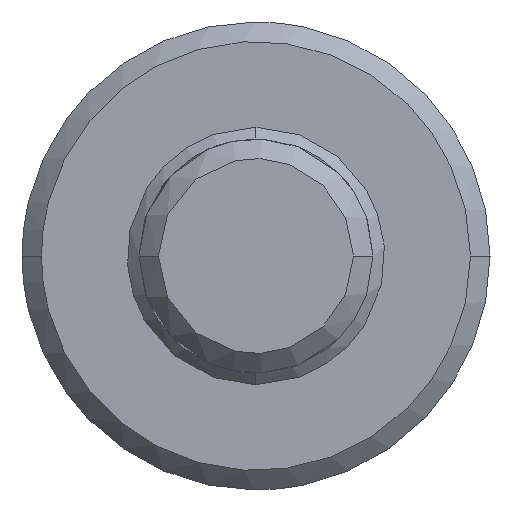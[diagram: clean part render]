
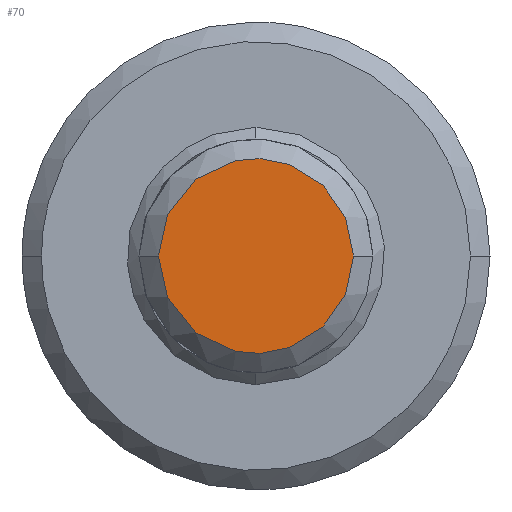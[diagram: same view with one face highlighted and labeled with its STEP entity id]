
A CAD part, left-side view. The second image highlights one B-rep face of the part: STEP entity #70.
In plain terms, the highlighted planar face has unit normal (-1, 0, 0).
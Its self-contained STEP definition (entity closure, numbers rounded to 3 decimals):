
#70=ADVANCED_FACE('',(#114),#1283,.T.);
#114=FACE_OUTER_BOUND('',#160,.T.);
#160=EDGE_LOOP('',(#307,#308));
#307=ORIENTED_EDGE('',*,*,#1087,.T.);
#308=ORIENTED_EDGE('',*,*,#1085,.F.);
#504=B_SPLINE_CURVE_WITH_KNOTS('',1,(#3117,#3118),.UNSPECIFIED.,.F.,.F.,
(2,2),(-4.142,-1.),.UNSPECIFIED.);
#507=B_SPLINE_CURVE_WITH_KNOTS('',1,(#3138,#3139),.UNSPECIFIED.,.F.,.F.,
(2,2),(5.142,8.283),.UNSPECIFIED.);
#677=PCURVE('',#1269,#861);
#679=PCURVE('',#1283,#863);
#680=PCURVE('',#1283,#864);
#681=PCURVE('',#1270,#865);
#861=DEFINITIONAL_REPRESENTATION('',(#504),#3322);
#863=DEFINITIONAL_REPRESENTATION('',(#1164),#3322);
#864=DEFINITIONAL_REPRESENTATION('',(#1165),#3322);
#865=DEFINITIONAL_REPRESENTATION('',(#507),#3322);
#993=SURFACE_CURVE('',#1162,(#677,#680),.PCURVE_S1.);
#995=SURFACE_CURVE('',#1163,(#679,#681),.PCURVE_S1.);
#1085=EDGE_CURVE('',#1242,#1241,#993,.T.);
#1087=EDGE_CURVE('',#1242,#1241,#995,.T.);
#1162=(
BOUNDED_CURVE()
B_SPLINE_CURVE(2,(#3112,#3113,#3114,#3115,#3116),.UNSPECIFIED.,.F.,.F.)
B_SPLINE_CURVE_WITH_KNOTS((3,2,3),(-4.142,-2.571,-1.),
 .UNSPECIFIED.)
CURVE()
GEOMETRIC_REPRESENTATION_ITEM()
RATIONAL_B_SPLINE_CURVE((1.,0.707,1.,0.707,1.))
REPRESENTATION_ITEM('')
);
#1163=(
BOUNDED_CURVE()
B_SPLINE_CURVE(2,(#3123,#3124,#3125,#3126,#3127),.UNSPECIFIED.,.F.,.F.)
B_SPLINE_CURVE_WITH_KNOTS((3,2,3),(5.142,6.712,8.283),
 .UNSPECIFIED.)
CURVE()
GEOMETRIC_REPRESENTATION_ITEM()
RATIONAL_B_SPLINE_CURVE((1.,0.707,1.,0.707,1.))
REPRESENTATION_ITEM('')
);
#1164=(
BOUNDED_CURVE()
B_SPLINE_CURVE(2,(#3128,#3129,#3130,#3131,#3132),.UNSPECIFIED.,.F.,.F.)
B_SPLINE_CURVE_WITH_KNOTS((3,2,3),(5.142,6.712,8.283),
 .UNSPECIFIED.)
CURVE()
GEOMETRIC_REPRESENTATION_ITEM()
RATIONAL_B_SPLINE_CURVE((1.,0.707,1.,0.707,1.))
REPRESENTATION_ITEM('')
);
#1165=(
BOUNDED_CURVE()
B_SPLINE_CURVE(2,(#3133,#3134,#3135,#3136,#3137),.UNSPECIFIED.,.F.,.F.)
B_SPLINE_CURVE_WITH_KNOTS((3,2,3),(-4.142,-2.571,-1.),
 .UNSPECIFIED.)
CURVE()
GEOMETRIC_REPRESENTATION_ITEM()
RATIONAL_B_SPLINE_CURVE((1.,0.707,1.,0.707,1.))
REPRESENTATION_ITEM('')
);
#1241=VERTEX_POINT('',#2931);
#1242=VERTEX_POINT('',#2932);
#1269=(
BOUNDED_SURFACE()
B_SPLINE_SURFACE(2,1,((#2595,#2596),(#2597,#2598),(#2599,#2600),(#2601,#2602),
(#2603,#2604),(#2605,#2606),(#2607,#2608),(#2609,#2610),(#2611,#2612)),
 .UNSPECIFIED.,.T.,.F.,.F.)
B_SPLINE_SURFACE_WITH_KNOTS((3,2,2,2,3),(2,2),(0.,1.571,3.142,
4.712,6.283),(0.,1.),.UNSPECIFIED.)
GEOMETRIC_REPRESENTATION_ITEM()
RATIONAL_B_SPLINE_SURFACE(((1.,1.),(0.707,0.707),
(1.,1.),(0.707,0.707),(1.,1.),(0.707,
0.707),(1.,1.),(0.707,0.707),(1.,1.)))
REPRESENTATION_ITEM('')
SURFACE()
);
#1270=(
BOUNDED_SURFACE()
B_SPLINE_SURFACE(2,1,((#2614,#2615),(#2616,#2617),(#2618,#2619),(#2620,#2621),
(#2622,#2623),(#2624,#2625),(#2626,#2627),(#2628,#2629),(#2630,#2631)),
 .UNSPECIFIED.,.T.,.F.,.F.)
B_SPLINE_SURFACE_WITH_KNOTS((3,2,2,2,3),(2,2),(0.,1.571,3.142,
4.712,6.283),(0.,1.),.UNSPECIFIED.)
GEOMETRIC_REPRESENTATION_ITEM()
RATIONAL_B_SPLINE_SURFACE(((1.,1.),(0.707,0.707),
(1.,1.),(0.707,0.707),(1.,1.),(0.707,
0.707),(1.,1.),(0.707,0.707),(1.,1.)))
REPRESENTATION_ITEM('')
SURFACE()
);
#1283=PLANE('',#1311);
#1311=AXIS2_PLACEMENT_3D('',#2613,#1322,$);
#1322=DIRECTION('',(-1.,0.,0.));
#2595=CARTESIAN_POINT('',(-768.5,285.,30.));
#2596=CARTESIAN_POINT('',(-764.257,289.243,30.));
#2597=CARTESIAN_POINT('',(-768.5,285.,30.));
#2598=CARTESIAN_POINT('',(-764.257,289.243,34.243));
#2599=CARTESIAN_POINT('',(-768.5,285.,30.));
#2600=CARTESIAN_POINT('',(-764.257,285.,34.243));
#2601=CARTESIAN_POINT('',(-768.5,285.,30.));
#2602=CARTESIAN_POINT('',(-764.257,280.757,34.243));
#2603=CARTESIAN_POINT('',(-768.5,285.,30.));
#2604=CARTESIAN_POINT('',(-764.257,280.757,30.));
#2605=CARTESIAN_POINT('',(-768.5,285.,30.));
#2606=CARTESIAN_POINT('',(-764.257,280.757,25.757));
#2607=CARTESIAN_POINT('',(-768.5,285.,30.));
#2608=CARTESIAN_POINT('',(-764.257,285.,25.757));
#2609=CARTESIAN_POINT('',(-768.5,285.,30.));
#2610=CARTESIAN_POINT('',(-764.257,289.243,25.757));
#2611=CARTESIAN_POINT('',(-768.5,285.,30.));
#2612=CARTESIAN_POINT('',(-764.257,289.243,30.));
#2613=CARTESIAN_POINT('',(-766.,287.5,32.5));
#2614=CARTESIAN_POINT('',(-768.5,285.,30.));
#2615=CARTESIAN_POINT('',(-764.257,289.243,30.));
#2616=CARTESIAN_POINT('',(-768.5,285.,30.));
#2617=CARTESIAN_POINT('',(-764.257,289.243,34.243));
#2618=CARTESIAN_POINT('',(-768.5,285.,30.));
#2619=CARTESIAN_POINT('',(-764.257,285.,34.243));
#2620=CARTESIAN_POINT('',(-768.5,285.,30.));
#2621=CARTESIAN_POINT('',(-764.257,280.757,34.243));
#2622=CARTESIAN_POINT('',(-768.5,285.,30.));
#2623=CARTESIAN_POINT('',(-764.257,280.757,30.));
#2624=CARTESIAN_POINT('',(-768.5,285.,30.));
#2625=CARTESIAN_POINT('',(-764.257,280.757,25.757));
#2626=CARTESIAN_POINT('',(-768.5,285.,30.));
#2627=CARTESIAN_POINT('',(-764.257,285.,25.757));
#2628=CARTESIAN_POINT('',(-768.5,285.,30.));
#2629=CARTESIAN_POINT('',(-764.257,289.243,25.757));
#2630=CARTESIAN_POINT('',(-768.5,285.,30.));
#2631=CARTESIAN_POINT('',(-764.257,289.243,30.));
#2931=CARTESIAN_POINT('',(-766.,287.5,30.));
#2932=CARTESIAN_POINT('',(-766.,282.5,30.));
#3112=CARTESIAN_POINT('',(-766.,282.5,30.));
#3113=CARTESIAN_POINT('',(-766.,282.5,27.5));
#3114=CARTESIAN_POINT('',(-766.,285.,27.5));
#3115=CARTESIAN_POINT('',(-766.,287.5,27.5));
#3116=CARTESIAN_POINT('',(-766.,287.5,30.));
#3117=CARTESIAN_POINT('',(3.142,0.589));
#3118=CARTESIAN_POINT('',(6.283,0.589));
#3123=CARTESIAN_POINT('',(-766.,282.5,30.));
#3124=CARTESIAN_POINT('',(-766.,282.5,32.5));
#3125=CARTESIAN_POINT('',(-766.,285.,32.5));
#3126=CARTESIAN_POINT('',(-766.,287.5,32.5));
#3127=CARTESIAN_POINT('',(-766.,287.5,30.));
#3128=CARTESIAN_POINT('',(0.5,1.));
#3129=CARTESIAN_POINT('',(0.,1.));
#3130=CARTESIAN_POINT('',(0.,0.5));
#3131=CARTESIAN_POINT('',(0.,0.));
#3132=CARTESIAN_POINT('',(0.5,0.));
#3133=CARTESIAN_POINT('',(0.5,1.));
#3134=CARTESIAN_POINT('',(1.,1.));
#3135=CARTESIAN_POINT('',(1.,0.5));
#3136=CARTESIAN_POINT('',(1.,0.));
#3137=CARTESIAN_POINT('',(0.5,0.));
#3138=CARTESIAN_POINT('',(3.142,0.589));
#3139=CARTESIAN_POINT('',(0.,0.589));
#3322=(
GEOMETRIC_REPRESENTATION_CONTEXT(2)
PARAMETRIC_REPRESENTATION_CONTEXT()
REPRESENTATION_CONTEXT('pspace','')
);
